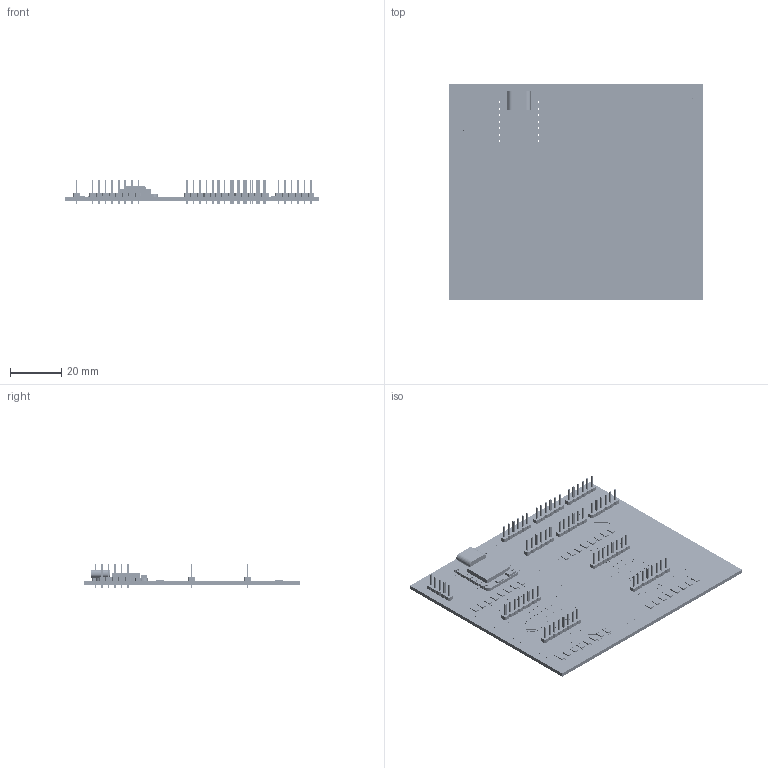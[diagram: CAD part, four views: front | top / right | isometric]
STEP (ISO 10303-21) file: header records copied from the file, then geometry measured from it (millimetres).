
FILE_DESCRIPTION(('KiCad electronic assembly'),'2;1');
FILE_NAME('FinalProject2(LargeBox).step','2025-07-22T18:39:28',('Pcbnew' ),('Kicad'),'Open CASCADE STEP processor 7.9', 'KiCad to STEP converter','Unknown');
FILE_SCHEMA(('AUTOMOTIVE_DESIGN { 1 0 10303 214 1 1 1 1 }'));
Length unit declared in the file: millimetre
Products named in the file (41): FinalProject2(LargeBox) 1; Resistor-1206; Ceramic; Contacts; Contacts (Mirror #1); Overcoat; PinHeader-01x06_P2.54mm_Vertical_THT; FinalProject2(LargeBox) 1.2.1; FinalProject2(LargeBox) 1.2.2; PinHeader-01x08_P2.54mm_Vertical_THT; FinalProject2(LargeBox) 1.17.1; FinalProject2(LargeBox) 1.17.2; PinHeader-01x05_P2.54mm_Vertical_THT; FinalProject2(LargeBox) 1.21.1; FinalProject2(LargeBox) 1.21.2; Seeed_XIAO-nRF52840_Sense; SoC_nRF_Sense; Mic_nRF_Sense; Antenna_nRF_Sense; XIAO_Generic; Board; USB; Contact; Contact Clones; Body007; Body008; Body009; Body010; Body011; Body012; Body013; Body014; Body015; Body016; Body017; Body018; Body019; FinalProject2(LargeBox)_copper; FinalProject2(LargeBox)_pad; FinalProject2(LargeBox)_via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
Assembly tree (79 placements, depth 5):
  FinalProject2(LargeBox) 1
    Resistor-1206  x32
      Ceramic
      Contacts
      Contacts (Mirror #1)
      Overcoat
    PinHeader-01x06_P2.54mm_Vertical_THT  x6
      FinalProject2(LargeBox) 1.2.1
      FinalProject2(LargeBox) 1.2.2
    PinHeader-01x08_P2.54mm_Vertical_THT  x4
      FinalProject2(LargeBox) 1.17.1
      FinalProject2(LargeBox) 1.17.2
    PinHeader-01x05_P2.54mm_Vertical_THT
      FinalProject2(LargeBox) 1.21.1
      FinalProject2(LargeBox) 1.21.2
    Seeed_XIAO-nRF52840_Sense
      SoC_nRF_Sense
      Mic_nRF_Sense
      Antenna_nRF_Sense
      XIAO_Generic
        Board
        USB
        Contact
        Contact Clones
          Body007
          Body008
          Body009
          Body010
          Body011
          Body012
          Body013
          Body014
          Body015
          Body016
          Body017
          Body018
          Body019
    FinalProject2(LargeBox)_copper
    FinalProject2(LargeBox)_pad
    FinalProject2(LargeBox)_via
    FinalProject2(LargeBox)_PCB
Bounding box: 99.06 x 83.82 x 9 mm (x, y, z)
Volume: 14300.6 mm3; surface area: 30461.6 mm2
Topology: 777 solids, 777 shells, 7054 faces, 16067 edges, 10716 vertices
Faces by surface type: plane 5453, cylinder 1601
Full cylindrical faces by diameter (mm): 0.5 x1, 0.7 x14, 0.75 x15, 0.775 x5, 0.8 x38, 0.95 x248, 0.975 x164, 1 x180, 1.35 x42, 1.375 x7, 1.4 x28, 2.1 x174
Entity records: 145686 total; most frequent: DIRECTION 24569, CARTESIAN_POINT 23819, ORIENTED_EDGE 22486, EDGE_CURVE 11243, AXIS2_PLACEMENT_3D 8278, LINE 8013, VECTOR 8013, VERTEX_POINT 7500
